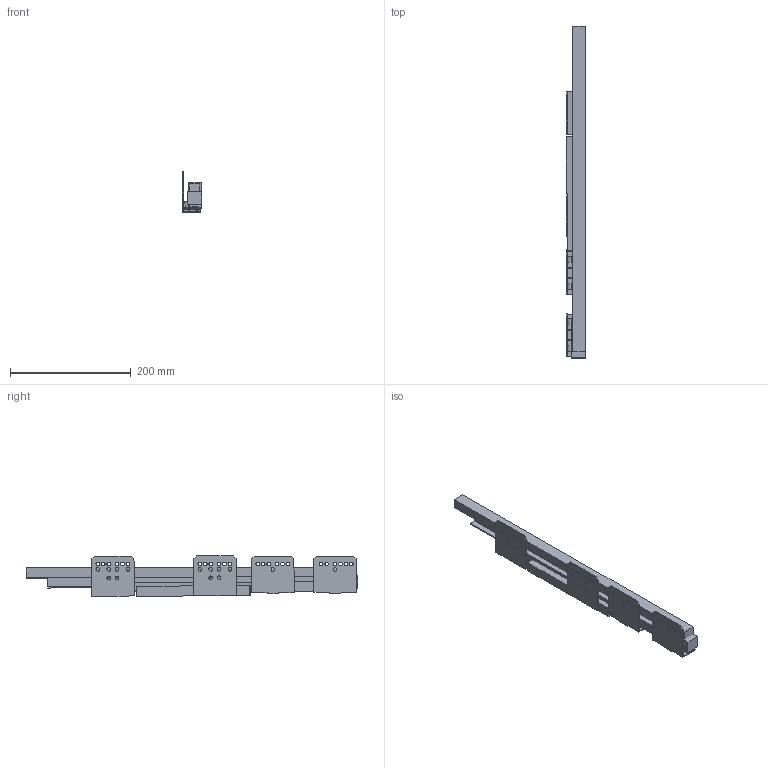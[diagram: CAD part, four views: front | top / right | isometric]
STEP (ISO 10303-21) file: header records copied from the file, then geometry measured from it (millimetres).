
FILE_DESCRIPTION (( 'STEP AP214' ), '1' );
FILE_NAME ('_IMOS Dynamic-XP VA 80kg NL550 LI.step', '2010-07-07T08:08:04', ( 'grass' ), ( '' ), 'SwSTEP 2.0', 'SolidWorks 2010', '' );
FILE_SCHEMA (( 'AUTOMOTIVE_DESIGN' ));
Length unit declared in the file: millimetre
Products named in the file (1): _IMOS Dynamic-XP VA 80kg NL550 LI
Bounding box: 32.79 x 549.89 x 66.67 mm (x, y, z)
Volume: 488360.9 mm3; surface area: 194718.1 mm2
Topology: 9 solids, 9 shells, 247 faces, 687 edges, 458 vertices
Faces by surface type: plane 167, cylinder 80
Entity records: 8167 total; most frequent: CARTESIAN_POINT 1393, ORIENTED_EDGE 1374, DIRECTION 1343, EDGE_CURVE 687, LINE 527, VECTOR 527, VERTEX_POINT 458, AXIS2_PLACEMENT_3D 408
